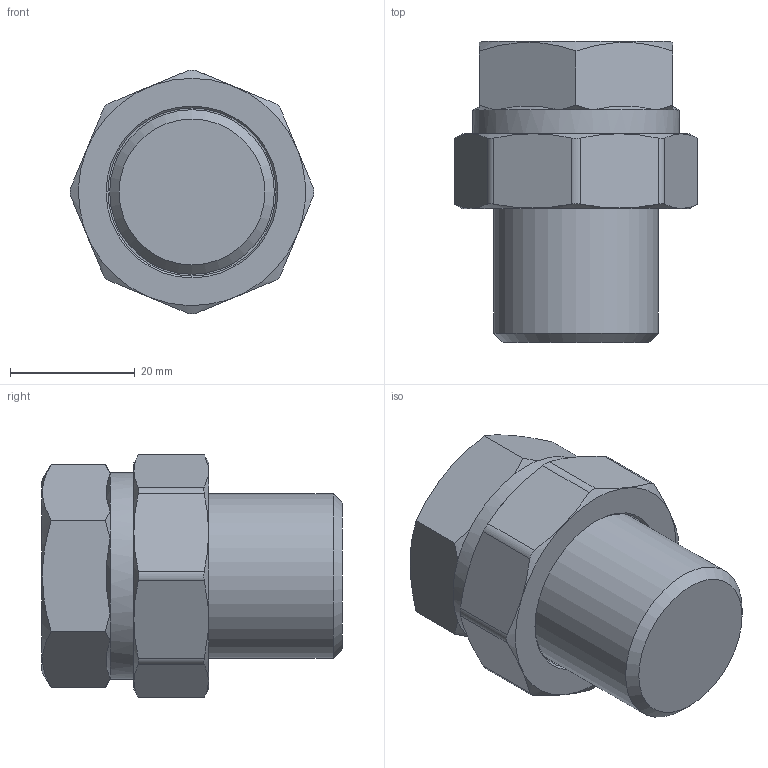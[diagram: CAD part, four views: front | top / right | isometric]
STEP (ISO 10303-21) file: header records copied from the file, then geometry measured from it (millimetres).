
FILE_DESCRIPTION(('STEP AP203'), '1');
FILE_NAME('覆.302612.002.000 捘 - VTr.341.N.0005', '2024-07-18T13:36:00', ('Boss'), (''), 'C3D Converter', 'C3D Toolkit', '');
FILE_SCHEMA(('CONFIG_CONTROL_DESIGN'));
Length unit declared in the file: millimetre
Products named in the file (1): ВР.302612.002.000 СБ
Bounding box: 39.18 x 48.33 x 39.18 mm (x, y, z)
Volume: 37303.6 mm3; surface area: 7241.5 mm2
Topology: 1 solids, 1 shells, 58 faces, 145 edges, 92 vertices
Faces by surface type: cone 28, plane 19, cylinder 11
Full cylindrical faces by diameter (mm): 26.441 x1, 27 x1, 33.249 x1
Entity records: 3495 total; most frequent: CARTESIAN_POINT 2266, ORIENTED_EDGE 266, DIRECTION 211, EDGE_CURVE 133, VERTEX_POINT 90, AXIS2_PLACEMENT_3D 88, B_SPLINE_CURVE_WITH_KNOTS 66, EDGE_LOOP 64
